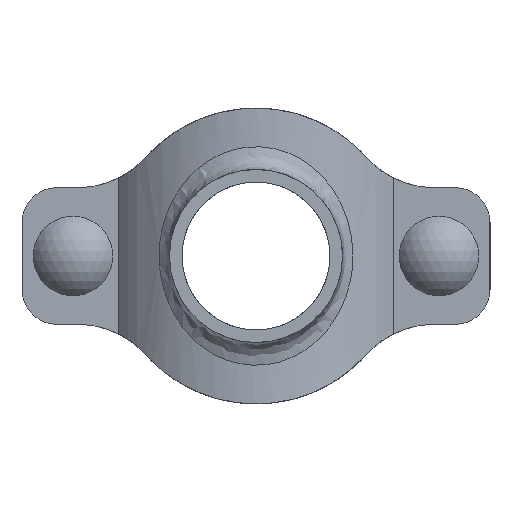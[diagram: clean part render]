
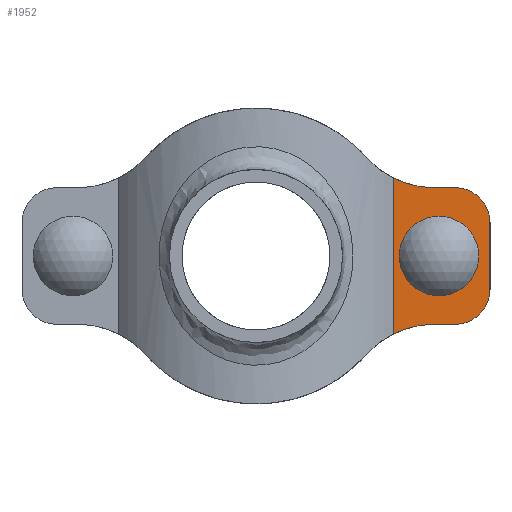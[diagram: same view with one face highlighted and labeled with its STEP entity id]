
A CAD part, front view. The second image highlights one B-rep face of the part: STEP entity #1952.
In plain terms, the highlighted planar face has unit normal (0, -1, 0) as drawn and (0, 1, 0) by its records, which use the part's own axes.
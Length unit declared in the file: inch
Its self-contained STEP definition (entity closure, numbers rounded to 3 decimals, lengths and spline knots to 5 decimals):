
#127=FACE_BOUND('',#345,.T.);
#218=FACE_OUTER_BOUND('',#344,.T.);
#344=EDGE_LOOP('',(#1623,#1624,#1625,#1626,#1627,#1628,#1629,#1630));
#345=EDGE_LOOP('',(#1631,#1632,#1633,#1634));
#457=LINE('',#3773,#603);
#468=LINE('',#3842,#614);
#472=LINE('',#3853,#618);
#490=LINE('',#4102,#636);
#491=LINE('',#4106,#637);
#492=LINE('',#4109,#638);
#603=VECTOR('',#2567,0.3937);
#614=VECTOR('',#2602,0.3937);
#618=VECTOR('',#2614,0.3937);
#636=VECTOR('',#2696,0.3937);
#637=VECTOR('',#2699,0.3937);
#638=VECTOR('',#2702,0.3937);
#712=CIRCLE('',#2162,0.2875);
#714=CIRCLE('',#2166,0.2875);
#733=CIRCLE('',#2199,1.);
#734=CIRCLE('',#2200,1.);
#735=CIRCLE('',#2201,0.38);
#736=CIRCLE('',#2202,0.38);
#858=VERTEX_POINT('',#3761);
#859=VERTEX_POINT('',#3772);
#869=VERTEX_POINT('',#3832);
#870=VERTEX_POINT('',#3833);
#873=VERTEX_POINT('',#3841);
#875=VERTEX_POINT('',#3847);
#907=VERTEX_POINT('',#4097);
#908=VERTEX_POINT('',#4099);
#909=VERTEX_POINT('',#4101);
#910=VERTEX_POINT('',#4103);
#911=VERTEX_POINT('',#4105);
#912=VERTEX_POINT('',#4107);
#1089=EDGE_CURVE('',#859,#858,#457,.T.);
#1104=EDGE_CURVE('',#869,#870,#712,.T.);
#1108=EDGE_CURVE('',#870,#873,#468,.T.);
#1111=EDGE_CURVE('',#873,#875,#714,.T.);
#1114=EDGE_CURVE('',#875,#869,#472,.T.);
#1156=EDGE_CURVE('',#859,#907,#733,.T.);
#1157=EDGE_CURVE('',#908,#858,#734,.T.);
#1158=EDGE_CURVE('',#909,#908,#490,.T.);
#1159=EDGE_CURVE('',#910,#909,#735,.T.);
#1160=EDGE_CURVE('',#911,#910,#491,.T.);
#1161=EDGE_CURVE('',#912,#911,#736,.T.);
#1162=EDGE_CURVE('',#907,#912,#492,.T.);
#1623=ORIENTED_EDGE('',*,*,#1156,.F.);
#1624=ORIENTED_EDGE('',*,*,#1089,.T.);
#1625=ORIENTED_EDGE('',*,*,#1157,.F.);
#1626=ORIENTED_EDGE('',*,*,#1158,.F.);
#1627=ORIENTED_EDGE('',*,*,#1159,.F.);
#1628=ORIENTED_EDGE('',*,*,#1160,.F.);
#1629=ORIENTED_EDGE('',*,*,#1161,.F.);
#1630=ORIENTED_EDGE('',*,*,#1162,.F.);
#1631=ORIENTED_EDGE('',*,*,#1111,.T.);
#1632=ORIENTED_EDGE('',*,*,#1114,.T.);
#1633=ORIENTED_EDGE('',*,*,#1104,.T.);
#1634=ORIENTED_EDGE('',*,*,#1108,.T.);
#1749=PLANE('',#2198);
#1952=ADVANCED_FACE('',(#218,#127),#1749,.F.);
#2162=AXIS2_PLACEMENT_3D('',#3834,#2594,#2595);
#2166=AXIS2_PLACEMENT_3D('',#3848,#2607,#2608);
#2198=AXIS2_PLACEMENT_3D('',#4096,#2690,#2691);
#2199=AXIS2_PLACEMENT_3D('',#4098,#2692,#2693);
#2200=AXIS2_PLACEMENT_3D('',#4100,#2694,#2695);
#2201=AXIS2_PLACEMENT_3D('',#4104,#2697,#2698);
#2202=AXIS2_PLACEMENT_3D('',#4108,#2700,#2701);
#2567=DIRECTION('',(0.,0.,-1.));
#2594=DIRECTION('center_axis',(0.,-1.,0.));
#2595=DIRECTION('ref_axis',(-1.,0.,0.));
#2602=DIRECTION('',(0.,0.,-1.));
#2607=DIRECTION('center_axis',(0.,-1.,0.));
#2608=DIRECTION('ref_axis',(1.,0.,0.));
#2614=DIRECTION('',(0.,0.,1.));
#2690=DIRECTION('center_axis',(0.,-1.,0.));
#2691=DIRECTION('ref_axis',(1.,0.,0.));
#2692=DIRECTION('center_axis',(0.,1.,0.));
#2693=DIRECTION('ref_axis',(-0.745,0.,0.667));
#2694=DIRECTION('center_axis',(0.,1.,0.));
#2695=DIRECTION('ref_axis',(0.,0.,-1.));
#2696=DIRECTION('',(1.,0.,0.));
#2697=DIRECTION('center_axis',(0.,-1.,0.));
#2698=DIRECTION('ref_axis',(0.,0.,-1.));
#2699=DIRECTION('',(0.,0.,-1.));
#2700=DIRECTION('center_axis',(0.,-1.,0.));
#2701=DIRECTION('ref_axis',(-1.,0.,0.));
#2702=DIRECTION('',(-1.,0.,0.));
#3761=CARTESIAN_POINT('',(-1.50967,1.25,-0.85541));
#3772=CARTESIAN_POINT('',(-1.50967,1.25,0.85541));
#3773=CARTESIAN_POINT('',(-1.50967,1.25,0.));
#3832=CARTESIAN_POINT('',(-1.7225,1.25,0.0925));
#3833=CARTESIAN_POINT('',(-2.2975,1.25,0.0925));
#3834=CARTESIAN_POINT('Origin',(-2.01,1.25,0.0925));
#3841=CARTESIAN_POINT('',(-2.2975,1.25,-0.0925));
#3842=CARTESIAN_POINT('',(-2.2975,1.25,-0.04625));
#3847=CARTESIAN_POINT('',(-1.7225,1.25,-0.0925));
#3848=CARTESIAN_POINT('Origin',(-2.01,1.25,-0.0925));
#3853=CARTESIAN_POINT('',(-1.7225,1.25,0.04625));
#4096=CARTESIAN_POINT('Origin',(-2.57,1.25,0.));
#4097=CARTESIAN_POINT('',(-1.95656,1.25,0.75));
#4098=CARTESIAN_POINT('Origin',(-1.95656,1.25,1.75));
#4099=CARTESIAN_POINT('',(-1.95656,1.25,-0.75));
#4100=CARTESIAN_POINT('Origin',(-1.95656,1.25,-1.75));
#4101=CARTESIAN_POINT('',(-2.19,1.25,-0.75));
#4102=CARTESIAN_POINT('',(-2.26328,1.25,-0.75));
#4103=CARTESIAN_POINT('',(-2.57,1.25,-0.37));
#4104=CARTESIAN_POINT('Origin',(-2.19,1.25,-0.37));
#4105=CARTESIAN_POINT('',(-2.57,1.25,0.37));
#4106=CARTESIAN_POINT('',(-2.57,1.25,-0.185));
#4107=CARTESIAN_POINT('',(-2.19,1.25,0.75));
#4108=CARTESIAN_POINT('Origin',(-2.19,1.25,0.37));
#4109=CARTESIAN_POINT('',(-2.38,1.25,0.75));
